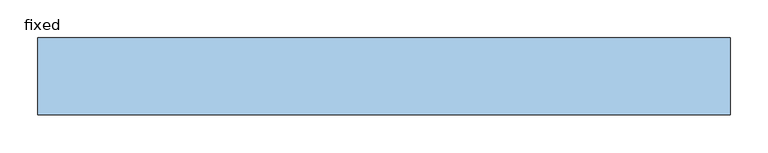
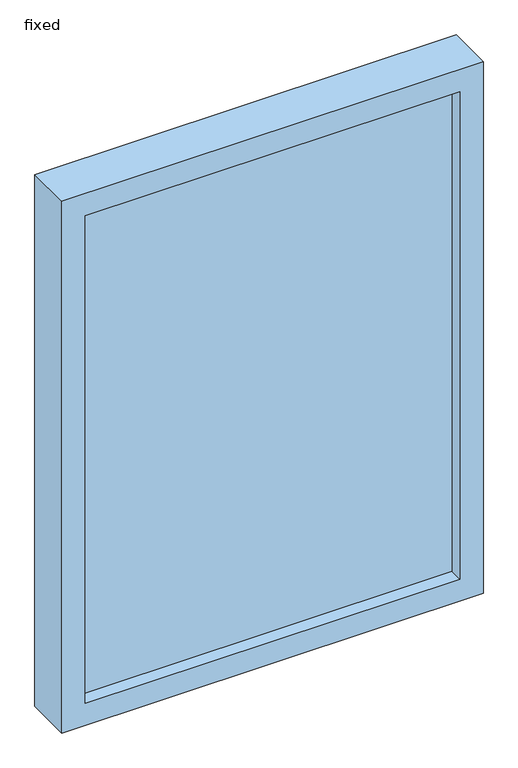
"""IFC4 building model written with IfcOpenShell, lengths in millimetres: window geometry."""

from ifc_helpers import new_model, si_unit, frame, origin, place, context, project, spatial, polyline, outline, extrude, source, transform, mapped, element, save


def fixed_552a8660(model_context):
    return source(origin(), model_context, "Body", "SweptSolid", [
        extrude(outline(polyline([(406.4, -9.0938019), (-406.4, -9.0938019), (-406.4, 10.7271914), (406.4, 10.7271914), (406.4, -9.0938019)])), frame((0.0, 0.0, 965.2), z_axis=(0.0, 0.0, 1.0), x_axis=(1.0, 0.0, 0.0)), (0.0, 0.0, 1.0), 1117.6),
        extrude(outline(polyline([(2133.6, 457.2), (2133.6, -457.2), (914.4, -457.2), (914.4, 457.2), (2133.6, 457.2)]), holes=[polyline([(2082.8, 406.4), (965.2, 406.4), (965.2, -406.4), (2082.8, -406.4), (2082.8, 406.4)])]), frame((0.0, -38.1, 0.0), z_axis=(0.0, 1.0, 0.0), x_axis=(0.0, 0.0, 1.0)), (0.0, 0.0, 1.0), 101.6),
    ])


if __name__ == "__main__":
    model = new_model("IFC4")
    model_context = context("Model", 3, world=origin())
    ifc_project = project(units=[si_unit("LENGTHUNIT", "METRE", prefix="MILLI")], contexts=[model_context])
    site = spatial("IfcSite", under=ifc_project)
    building = spatial("IfcBuilding", under=site)
    placement = place(None, origin())
    fixed_shape = fixed_552a8660(model_context)
    element("IfcWindow", 1, ObjectType="fixed : 36\"w x 48\"h", at=placement, inside=building, context=model_context, shape_type="MappedRepresentation", body=[
        mapped(fixed_shape, transform((0.0, 0.0, 0.0), x_axis=(1.0, 0.0, 0.0), y_axis=(0.0, 1.0, 0.0), z_axis=(0.0, 0.0, 1.0))),
    ])
    save(model, "model.ifc")
